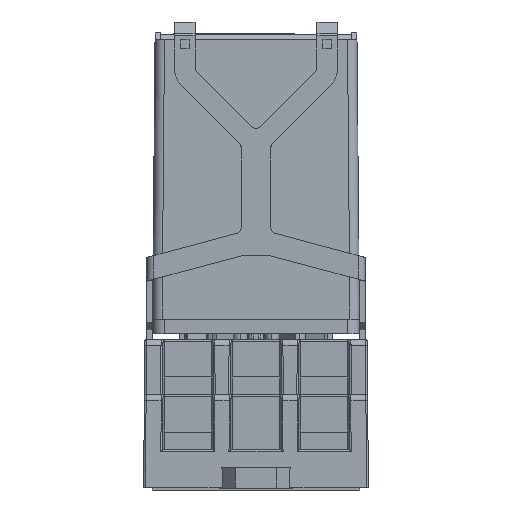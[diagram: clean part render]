
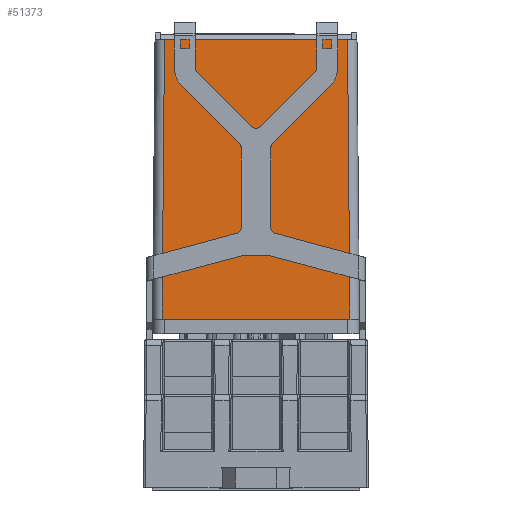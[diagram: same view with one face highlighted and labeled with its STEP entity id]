
A CAD part, front view. The second image highlights one B-rep face of the part: STEP entity #51373.
In plain terms, the highlighted planar face has unit normal (0, -1, 0.009).
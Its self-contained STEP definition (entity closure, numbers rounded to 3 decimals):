
#214 = CARTESIAN_POINT ( 'NONE',  ( 3.533, 25.583, 76.1 ) ) ;
#1585 = ORIENTED_EDGE ( 'NONE', *, *, #19004, .T. ) ;
#1741 = CARTESIAN_POINT ( 'NONE',  ( 34.79, 25.171, 28.9 ) ) ;
#1952 = VECTOR ( 'NONE', #22892, 1000. ) ;
#2473 = EDGE_CURVE ( 'NONE', #55563, #53676, #13247, .T. ) ;
#2646 = CARTESIAN_POINT ( 'NONE',  ( 3.209, 25.171, 28.9 ) ) ;
#4317 = CARTESIAN_POINT ( 'NONE',  ( 34.879, 25.171, 28.9 ) ) ;
#4656 = FACE_OUTER_BOUND ( 'NONE', #21043, .T. ) ;
#5122 = VERTEX_POINT ( 'NONE', #47222 ) ;
#5486 = LINE ( 'NONE', #37609, #9412 ) ;
#6340 = B_SPLINE_CURVE_WITH_KNOTS ( 'NONE', 3,
 ( #25301, #34826, #56236, #11667 ),
 .UNSPECIFIED., .F., .F.,
 ( 4, 4 ),
 ( 0., 1. ),
 .UNSPECIFIED. ) ;
#6646 = VERTEX_POINT ( 'NONE', #7541 ) ;
#7541 = CARTESIAN_POINT ( 'NONE',  ( 34.467, 25.583, 76.1 ) ) ;
#8997 = EDGE_CURVE ( 'NONE', #9316, #27267, #6340, .T. ) ;
#9316 = VERTEX_POINT ( 'NONE', #2646 ) ;
#9342 = AXIS2_PLACEMENT_3D ( 'NONE', #37363, #31721, #36487 ) ;
#9412 = VECTOR ( 'NONE', #51896, 1000. ) ;
#10532 = VECTOR ( 'NONE', #22966, 1000. ) ;
#11667 = CARTESIAN_POINT ( 'NONE',  ( 3.211, 25.171, 28.9 ) ) ;
#11895 = CARTESIAN_POINT ( 'NONE',  ( 34.79, 25.171, 28.9 ) ) ;
#13157 = EDGE_CURVE ( 'NONE', #41659, #5122, #21990, .T. ) ;
#13247 = LINE ( 'NONE', #54247, #14383 ) ;
#13260 = LINE ( 'NONE', #4317, #10532 ) ;
#13902 = VECTOR ( 'NONE', #21460, 1000. ) ;
#14383 = VECTOR ( 'NONE', #54534, 1000. ) ;
#19004 = EDGE_CURVE ( 'NONE', #55563, #9316, #5486, .T. ) ;
#19392 = VERTEX_POINT ( 'NONE', #42568 ) ;
#19605 = CARTESIAN_POINT ( 'NONE',  ( 0.649, 25.171, 28.9 ) ) ;
#20645 = EDGE_CURVE ( 'NONE', #6646, #53676, #46111, .T. ) ;
#21043 = EDGE_LOOP ( 'NONE', ( #56388, #27328, #51789, #1585, #35913, #29869, #33016, #45519 ) ) ;
#21460 = DIRECTION ( 'NONE',  ( 1., 0., 0. ) ) ;
#21990 = B_SPLINE_CURVE_WITH_KNOTS ( 'NONE', 3,
 ( #52619, #1741, #56164, #11895 ),
 .UNSPECIFIED., .F., .F.,
 ( 4, 4 ),
 ( 0., 1. ),
 .UNSPECIFIED. ) ;
#22892 = DIRECTION ( 'NONE',  ( -1., 0., 0. ) ) ;
#22966 = DIRECTION ( 'NONE',  ( -0.009, 0.009, 1. ) ) ;
#24658 = DIRECTION ( 'NONE',  ( -1., 0., 0. ) ) ;
#25301 = CARTESIAN_POINT ( 'NONE',  ( 3.209, 25.171, 28.9 ) ) ;
#27267 = VERTEX_POINT ( 'NONE', #57562 ) ;
#27297 = CARTESIAN_POINT ( 'NONE',  ( 3.121, 25.171, 28.9 ) ) ;
#27328 = ORIENTED_EDGE ( 'NONE', *, *, #20645, .T. ) ;
#28547 = LINE ( 'NONE', #19605, #30509 ) ;
#29869 = ORIENTED_EDGE ( 'NONE', *, *, #44770, .F. ) ;
#30434 = LINE ( 'NONE', #48542, #13902 ) ;
#30509 = VECTOR ( 'NONE', #24658, 1000. ) ;
#31721 = DIRECTION ( 'NONE',  ( 0., -1., 0.009 ) ) ;
#33016 = ORIENTED_EDGE ( 'NONE', *, *, #13157, .T. ) ;
#34159 = EDGE_CURVE ( 'NONE', #19392, #6646, #13260, .T. ) ;
#34826 = CARTESIAN_POINT ( 'NONE',  ( 3.21, 25.171, 28.9 ) ) ;
#34949 = CARTESIAN_POINT ( 'NONE',  ( 34.789, 25.171, 28.9 ) ) ;
#35913 = ORIENTED_EDGE ( 'NONE', *, *, #8997, .T. ) ;
#36487 = DIRECTION ( 'NONE',  ( 0., 0.009, 1. ) ) ;
#37066 = PLANE ( 'NONE',  #9342 ) ;
#37363 = CARTESIAN_POINT ( 'NONE',  ( 0.649, 25.15, 26.5 ) ) ;
#37609 = CARTESIAN_POINT ( 'NONE',  ( 1.5, 25.171, 28.9 ) ) ;
#41659 = VERTEX_POINT ( 'NONE', #34949 ) ;
#42568 = CARTESIAN_POINT ( 'NONE',  ( 34.879, 25.171, 28.9 ) ) ;
#44770 = EDGE_CURVE ( 'NONE', #41659, #27267, #28547, .T. ) ;
#45237 = CARTESIAN_POINT ( 'NONE',  ( 19., 25.583, 76.1 ) ) ;
#45519 = ORIENTED_EDGE ( 'NONE', *, *, #49462, .T. ) ;
#46111 = LINE ( 'NONE', #45237, #1952 ) ;
#47222 = CARTESIAN_POINT ( 'NONE',  ( 34.79, 25.171, 28.9 ) ) ;
#48542 = CARTESIAN_POINT ( 'NONE',  ( 1.5, 25.171, 28.9 ) ) ;
#49462 = EDGE_CURVE ( 'NONE', #5122, #19392, #30434, .T. ) ;
#51373 = ADVANCED_FACE ( 'NONE', ( #4656 ), #37066, .T. ) ;
#51789 = ORIENTED_EDGE ( 'NONE', *, *, #2473, .F. ) ;
#51896 = DIRECTION ( 'NONE',  ( 1., 0., 0. ) ) ;
#52619 = CARTESIAN_POINT ( 'NONE',  ( 34.789, 25.171, 28.9 ) ) ;
#53676 = VERTEX_POINT ( 'NONE', #214 ) ;
#54247 = CARTESIAN_POINT ( 'NONE',  ( 3.531, 25.581, 75.902 ) ) ;
#54534 = DIRECTION ( 'NONE',  ( 0.009, 0.009, 1. ) ) ;
#55563 = VERTEX_POINT ( 'NONE', #27297 ) ;
#56164 = CARTESIAN_POINT ( 'NONE',  ( 34.79, 25.171, 28.9 ) ) ;
#56236 = CARTESIAN_POINT ( 'NONE',  ( 3.21, 25.171, 28.9 ) ) ;
#56388 = ORIENTED_EDGE ( 'NONE', *, *, #34159, .T. ) ;
#57562 = CARTESIAN_POINT ( 'NONE',  ( 3.211, 25.171, 28.9 ) ) ;
